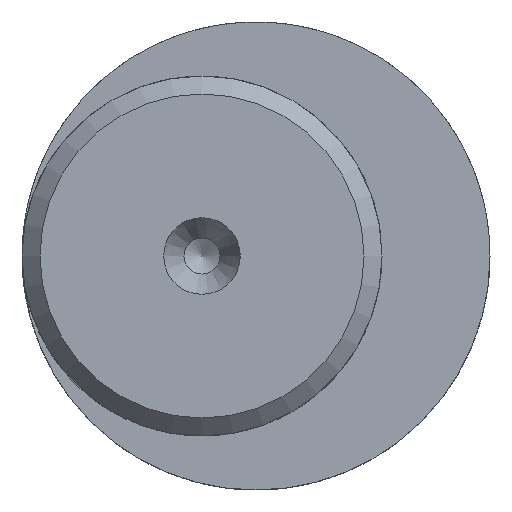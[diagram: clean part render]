
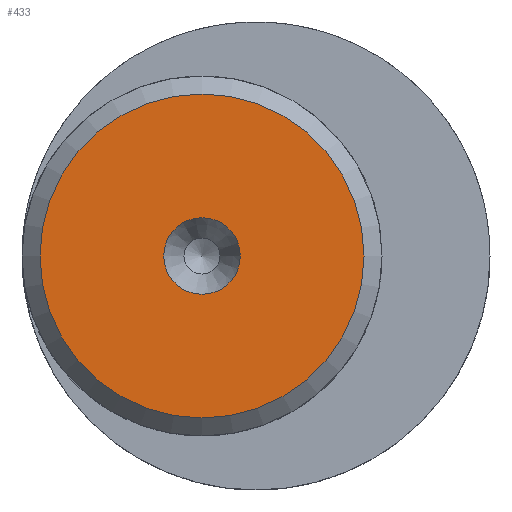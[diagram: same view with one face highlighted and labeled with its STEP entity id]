
A CAD part, left-side view. The second image highlights one B-rep face of the part: STEP entity #433.
In plain terms, the highlighted planar face has unit normal (-1, 0, 0).
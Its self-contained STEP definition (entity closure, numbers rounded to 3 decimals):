
#22=FACE_BOUND('',#91,.T.);
#32=PLANE('',#505);
#61=FACE_OUTER_BOUND('',#90,.T.);
#90=EDGE_LOOP('',(#357));
#91=EDGE_LOOP('',(#358));
#171=CIRCLE('',#504,2.125);
#172=CIRCLE('',#506,9.);
#213=VERTEX_POINT('',#800);
#214=VERTEX_POINT('',#804);
#266=EDGE_CURVE('',#213,#213,#171,.T.);
#267=EDGE_CURVE('',#214,#214,#172,.T.);
#357=ORIENTED_EDGE('',*,*,#267,.F.);
#358=ORIENTED_EDGE('',*,*,#266,.T.);
#433=ADVANCED_FACE('',(#61,#22),#32,.T.);
#504=AXIS2_PLACEMENT_3D('',#802,#622,#623);
#505=AXIS2_PLACEMENT_3D('',#803,#624,#625);
#506=AXIS2_PLACEMENT_3D('',#805,#626,#627);
#622=DIRECTION('center_axis',(1.,0.,0.));
#623=DIRECTION('ref_axis',(0.,0.,-1.));
#624=DIRECTION('center_axis',(-1.,0.,0.));
#625=DIRECTION('ref_axis',(0.,0.,1.));
#626=DIRECTION('center_axis',(1.,0.,0.));
#627=DIRECTION('ref_axis',(0.,0.,-1.));
#800=CARTESIAN_POINT('',(0.,-2.125,0.));
#802=CARTESIAN_POINT('Origin',(0.,0.,0.));
#803=CARTESIAN_POINT('Origin',(0.,9.,0.));
#804=CARTESIAN_POINT('',(0.,-9.,0.));
#805=CARTESIAN_POINT('Origin',(0.,0.,0.));
